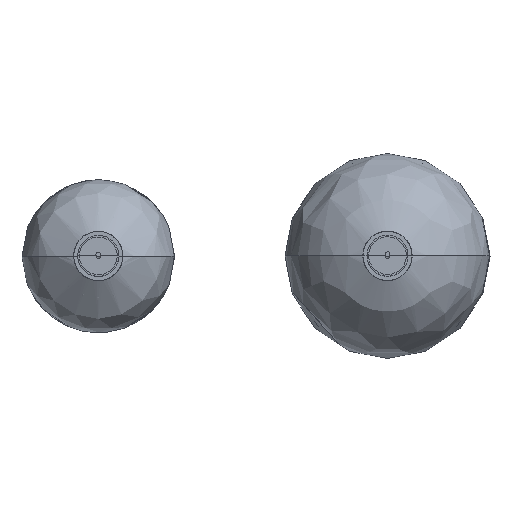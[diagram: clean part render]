
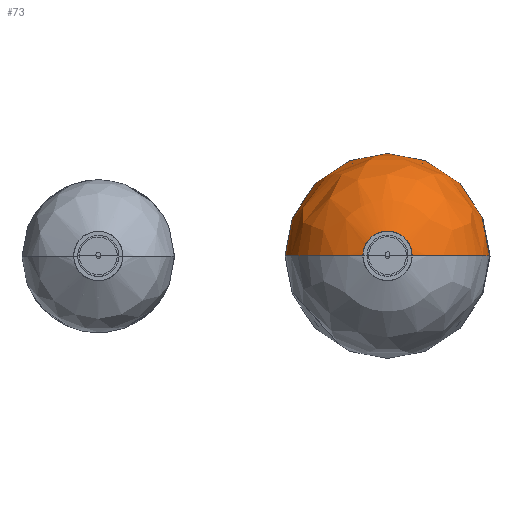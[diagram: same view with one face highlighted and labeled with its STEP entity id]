
A CAD part, top view. The second image highlights one B-rep face of the part: STEP entity #73.
In plain terms, the highlighted free-form (B-spline) face has degree [2, 2] with [5, 5] control points.
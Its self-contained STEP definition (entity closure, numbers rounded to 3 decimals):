
#73=ADVANCED_FACE('',(#149),#2061,.T.);
#149=FACE_OUTER_BOUND('',#225,.T.);
#225=EDGE_LOOP('',(#329,#330,#331,#332));
#329=ORIENTED_EDGE('',*,*,#1687,.T.);
#330=ORIENTED_EDGE('',*,*,#1688,.T.);
#331=ORIENTED_EDGE('',*,*,#1689,.T.);
#332=ORIENTED_EDGE('',*,*,#1690,.T.);
#625=PCURVE('',#2061,#921);
#626=PCURVE('',#2061,#922);
#627=PCURVE('',#2061,#923);
#628=PCURVE('',#2061,#924);
#629=PCURVE('',#2062,#925);
#631=PCURVE('',#2062,#927);
#921=DEFINITIONAL_REPRESENTATION('',(#1225),#4620);
#922=DEFINITIONAL_REPRESENTATION('',(#1226),#4620);
#923=DEFINITIONAL_REPRESENTATION('',(#1227),#4620);
#924=DEFINITIONAL_REPRESENTATION('',(#1228),#4620);
#925=DEFINITIONAL_REPRESENTATION('',(#1229),#4620);
#927=DEFINITIONAL_REPRESENTATION('',(#1231),#4620);
#1225=B_SPLINE_CURVE_WITH_KNOTS('',1,(#2465,#2466),.UNSPECIFIED.,.F.,.F.,
(2,2),(-392.651,0.),.UNSPECIFIED.);
#1226=B_SPLINE_CURVE_WITH_KNOTS('',1,(#2472,#2473),.UNSPECIFIED.,.F.,.F.,
(2,2),(-428.561,-182.83),.UNSPECIFIED.);
#1227=B_SPLINE_CURVE_WITH_KNOTS('',1,(#2479,#2480),.UNSPECIFIED.,.F.,.F.,
(2,2),(0.,392.651),.UNSPECIFIED.);
#1228=B_SPLINE_CURVE_WITH_KNOTS('',1,(#2486,#2487),.UNSPECIFIED.,.F.,.F.,
(2,2),(182.83,428.561),.UNSPECIFIED.);
#1229=B_SPLINE_CURVE_WITH_KNOTS('',1,(#2488,#2489),.UNSPECIFIED.,.F.,.F.,
(2,2),(182.83,428.561),.UNSPECIFIED.);
#1231=B_SPLINE_CURVE_WITH_KNOTS('',1,(#2497,#2498),.UNSPECIFIED.,.F.,.F.,
(2,2),(-428.561,-182.83),.UNSPECIFIED.);
#1527=SURFACE_CURVE('',#1839,(#625),.PCURVE_S1.);
#1528=SURFACE_CURVE('',#1840,(#626,#631),.PCURVE_S1.);
#1529=SURFACE_CURVE('',#1841,(#627),.PCURVE_S1.);
#1530=SURFACE_CURVE('',#1842,(#628,#629),.PCURVE_S1.);
#1687=EDGE_CURVE('',#1979,#1977,#1527,.T.);
#1688=EDGE_CURVE('',#1977,#1978,#1528,.T.);
#1689=EDGE_CURVE('',#1978,#1980,#1529,.T.);
#1690=EDGE_CURVE('',#1980,#1979,#1530,.T.);
#1839=(
BOUNDED_CURVE()
B_SPLINE_CURVE(2,(#2460,#2461,#2462,#2463,#2464),.UNSPECIFIED.,.F.,.F.)
B_SPLINE_CURVE_WITH_KNOTS((3,2,3),(-392.651,-196.326,0.),
 .UNSPECIFIED.)
CURVE()
GEOMETRIC_REPRESENTATION_ITEM()
RATIONAL_B_SPLINE_CURVE((1.,0.707,1.,0.707,1.))
REPRESENTATION_ITEM('')
);
#1840=(
BOUNDED_CURVE()
B_SPLINE_CURVE(2,(#2467,#2468,#2469,#2470,#2471),.UNSPECIFIED.,.F.,.F.)
B_SPLINE_CURVE_WITH_KNOTS((3,2,3),(-428.561,-314.159,
-182.83),.UNSPECIFIED.)
CURVE()
GEOMETRIC_REPRESENTATION_ITEM()
RATIONAL_B_SPLINE_CURVE((1.,0.837,1.,0.787,1.))
REPRESENTATION_ITEM('')
);
#1841=(
BOUNDED_CURVE()
B_SPLINE_CURVE(2,(#2474,#2475,#2476,#2477,#2478),.UNSPECIFIED.,.F.,.F.)
B_SPLINE_CURVE_WITH_KNOTS((3,2,3),(0.,196.326,392.651),
 .UNSPECIFIED.)
CURVE()
GEOMETRIC_REPRESENTATION_ITEM()
RATIONAL_B_SPLINE_CURVE((1.,0.707,1.,0.707,1.))
REPRESENTATION_ITEM('')
);
#1842=(
BOUNDED_CURVE()
B_SPLINE_CURVE(2,(#2481,#2482,#2483,#2484,#2485),.UNSPECIFIED.,.F.,.F.)
B_SPLINE_CURVE_WITH_KNOTS((3,2,3),(182.83,314.159,428.561),
 .UNSPECIFIED.)
CURVE()
GEOMETRIC_REPRESENTATION_ITEM()
RATIONAL_B_SPLINE_CURVE((1.,0.787,1.,0.837,1.))
REPRESENTATION_ITEM('')
);
#1977=VERTEX_POINT('',#2456);
#1978=VERTEX_POINT('',#2457);
#1979=VERTEX_POINT('',#2458);
#1980=VERTEX_POINT('',#2459);
#2061=(
BOUNDED_SURFACE()
B_SPLINE_SURFACE(2,2,((#2406,#2407,#2408,#2409,#2410),(#2411,#2412,#2413,
#2414,#2415),(#2416,#2417,#2418,#2419,#2420),(#2421,#2422,#2423,#2424,#2425),
(#2426,#2427,#2428,#2429,#2430)),.UNSPECIFIED.,.F.,.F.,.F.)
B_SPLINE_SURFACE_WITH_KNOTS((3,2,3),(3,2,3),(-428.561,-314.159,
-182.83),(0.,196.326,392.651),.UNSPECIFIED.)
GEOMETRIC_REPRESENTATION_ITEM()
RATIONAL_B_SPLINE_SURFACE(((0.884,0.625,0.884,
0.625,0.884),(0.787,0.556,
0.787,0.556,0.787),(1.,0.707,
1.,0.707,1.),(0.755,0.534,0.755,
0.534,0.755),(0.92,0.65,
0.92,0.65,0.92)))
REPRESENTATION_ITEM('')
SURFACE()
);
#2062=(
BOUNDED_SURFACE()
B_SPLINE_SURFACE(2,2,((#2431,#2432,#2433,#2434,#2435),(#2436,#2437,#2438,
#2439,#2440),(#2441,#2442,#2443,#2444,#2445),(#2446,#2447,#2448,#2449,#2450),
(#2451,#2452,#2453,#2454,#2455)),.UNSPECIFIED.,.F.,.F.,.F.)
B_SPLINE_SURFACE_WITH_KNOTS((3,2,3),(3,2,3),(-428.561,-314.159,
-182.83),(392.651,588.977,785.303),
 .UNSPECIFIED.)
GEOMETRIC_REPRESENTATION_ITEM()
RATIONAL_B_SPLINE_SURFACE(((0.884,0.625,0.884,
0.625,0.884),(0.787,0.556,
0.787,0.556,0.787),(1.,0.707,
1.,0.707,1.),(0.755,0.534,0.755,
0.534,0.755),(0.92,0.65,
0.92,0.65,0.92)))
REPRESENTATION_ITEM('')
SURFACE()
);
#2406=CARTESIAN_POINT('',(12738.924,-156.79,2625.143));
#2407=CARTESIAN_POINT('',(12738.924,-106.801,2625.143));
#2408=CARTESIAN_POINT('',(12788.913,-106.801,2625.143));
#2409=CARTESIAN_POINT('',(12838.902,-106.801,2625.143));
#2410=CARTESIAN_POINT('',(12838.902,-156.79,2625.143));
#2411=CARTESIAN_POINT('',(12663.928,-156.79,2657.877));
#2412=CARTESIAN_POINT('',(12663.928,-31.805,2657.877));
#2413=CARTESIAN_POINT('',(12788.913,-31.805,2657.877));
#2414=CARTESIAN_POINT('',(12913.898,-31.805,2657.877));
#2415=CARTESIAN_POINT('',(12913.898,-156.79,2657.877));
#2416=CARTESIAN_POINT('',(12663.928,-156.79,2739.706));
#2417=CARTESIAN_POINT('',(12663.928,-31.805,2739.706));
#2418=CARTESIAN_POINT('',(12788.913,-31.805,2739.706));
#2419=CARTESIAN_POINT('',(12913.898,-31.805,2739.706));
#2420=CARTESIAN_POINT('',(12913.898,-156.79,2739.706));
#2421=CARTESIAN_POINT('',(12663.928,-156.79,2837.569));
#2422=CARTESIAN_POINT('',(12663.928,-31.805,2837.569));
#2423=CARTESIAN_POINT('',(12788.913,-31.805,2837.569));
#2424=CARTESIAN_POINT('',(12913.898,-31.805,2837.569));
#2425=CARTESIAN_POINT('',(12913.898,-156.79,2837.569));
#2426=CARTESIAN_POINT('',(12758.932,-156.79,2861.053));
#2427=CARTESIAN_POINT('',(12758.932,-126.809,2861.053));
#2428=CARTESIAN_POINT('',(12788.913,-126.809,2861.053));
#2429=CARTESIAN_POINT('',(12818.894,-126.809,2861.053));
#2430=CARTESIAN_POINT('',(12818.894,-156.79,2861.053));
#2431=CARTESIAN_POINT('',(12838.902,-156.79,2625.143));
#2432=CARTESIAN_POINT('',(12838.902,-206.779,2625.143));
#2433=CARTESIAN_POINT('',(12788.913,-206.779,2625.143));
#2434=CARTESIAN_POINT('',(12738.924,-206.779,2625.143));
#2435=CARTESIAN_POINT('',(12738.924,-156.79,2625.143));
#2436=CARTESIAN_POINT('',(12913.898,-156.79,2657.877));
#2437=CARTESIAN_POINT('',(12913.898,-281.775,2657.877));
#2438=CARTESIAN_POINT('',(12788.913,-281.775,2657.877));
#2439=CARTESIAN_POINT('',(12663.928,-281.775,2657.877));
#2440=CARTESIAN_POINT('',(12663.928,-156.79,2657.877));
#2441=CARTESIAN_POINT('',(12913.898,-156.79,2739.706));
#2442=CARTESIAN_POINT('',(12913.898,-281.775,2739.706));
#2443=CARTESIAN_POINT('',(12788.913,-281.775,2739.706));
#2444=CARTESIAN_POINT('',(12663.928,-281.775,2739.706));
#2445=CARTESIAN_POINT('',(12663.928,-156.79,2739.706));
#2446=CARTESIAN_POINT('',(12913.898,-156.79,2837.569));
#2447=CARTESIAN_POINT('',(12913.898,-281.775,2837.569));
#2448=CARTESIAN_POINT('',(12788.913,-281.775,2837.569));
#2449=CARTESIAN_POINT('',(12663.928,-281.775,2837.569));
#2450=CARTESIAN_POINT('',(12663.928,-156.79,2837.569));
#2451=CARTESIAN_POINT('',(12818.894,-156.79,2861.053));
#2452=CARTESIAN_POINT('',(12818.894,-186.772,2861.053));
#2453=CARTESIAN_POINT('',(12788.913,-186.772,2861.053));
#2454=CARTESIAN_POINT('',(12758.932,-186.772,2861.053));
#2455=CARTESIAN_POINT('',(12758.932,-156.79,2861.053));
#2456=CARTESIAN_POINT('',(12738.924,-156.79,2625.143));
#2457=CARTESIAN_POINT('',(12758.932,-156.79,2861.053));
#2458=CARTESIAN_POINT('',(12838.902,-156.79,2625.143));
#2459=CARTESIAN_POINT('',(12818.894,-156.79,2861.053));
#2460=CARTESIAN_POINT('',(12838.902,-156.79,2625.143));
#2461=CARTESIAN_POINT('',(12838.902,-106.801,2625.143));
#2462=CARTESIAN_POINT('',(12788.913,-106.801,2625.143));
#2463=CARTESIAN_POINT('',(12738.924,-106.801,2625.143));
#2464=CARTESIAN_POINT('',(12738.924,-156.79,2625.143));
#2465=CARTESIAN_POINT('',(-428.561,392.651));
#2466=CARTESIAN_POINT('',(-428.561,0.));
#2467=CARTESIAN_POINT('',(12738.924,-156.79,2625.143));
#2468=CARTESIAN_POINT('',(12663.928,-156.79,2657.877));
#2469=CARTESIAN_POINT('',(12663.928,-156.79,2739.706));
#2470=CARTESIAN_POINT('',(12663.928,-156.79,2837.569));
#2471=CARTESIAN_POINT('',(12758.932,-156.79,2861.053));
#2472=CARTESIAN_POINT('',(-428.561,0.));
#2473=CARTESIAN_POINT('',(-182.83,0.));
#2474=CARTESIAN_POINT('',(12758.932,-156.79,2861.053));
#2475=CARTESIAN_POINT('',(12758.932,-126.809,2861.053));
#2476=CARTESIAN_POINT('',(12788.913,-126.809,2861.053));
#2477=CARTESIAN_POINT('',(12818.894,-126.809,2861.053));
#2478=CARTESIAN_POINT('',(12818.894,-156.79,2861.053));
#2479=CARTESIAN_POINT('',(-182.83,0.));
#2480=CARTESIAN_POINT('',(-182.83,392.651));
#2481=CARTESIAN_POINT('',(12818.894,-156.79,2861.053));
#2482=CARTESIAN_POINT('',(12913.898,-156.79,2837.569));
#2483=CARTESIAN_POINT('',(12913.898,-156.79,2739.706));
#2484=CARTESIAN_POINT('',(12913.898,-156.79,2657.877));
#2485=CARTESIAN_POINT('',(12838.902,-156.79,2625.143));
#2486=CARTESIAN_POINT('',(-182.83,392.651));
#2487=CARTESIAN_POINT('',(-428.561,392.651));
#2488=CARTESIAN_POINT('',(-182.83,392.651));
#2489=CARTESIAN_POINT('',(-428.561,392.651));
#2497=CARTESIAN_POINT('',(-428.561,785.303));
#2498=CARTESIAN_POINT('',(-182.83,785.303));
#4620=(
GEOMETRIC_REPRESENTATION_CONTEXT(2)
PARAMETRIC_REPRESENTATION_CONTEXT()
REPRESENTATION_CONTEXT('pspace','')
);
